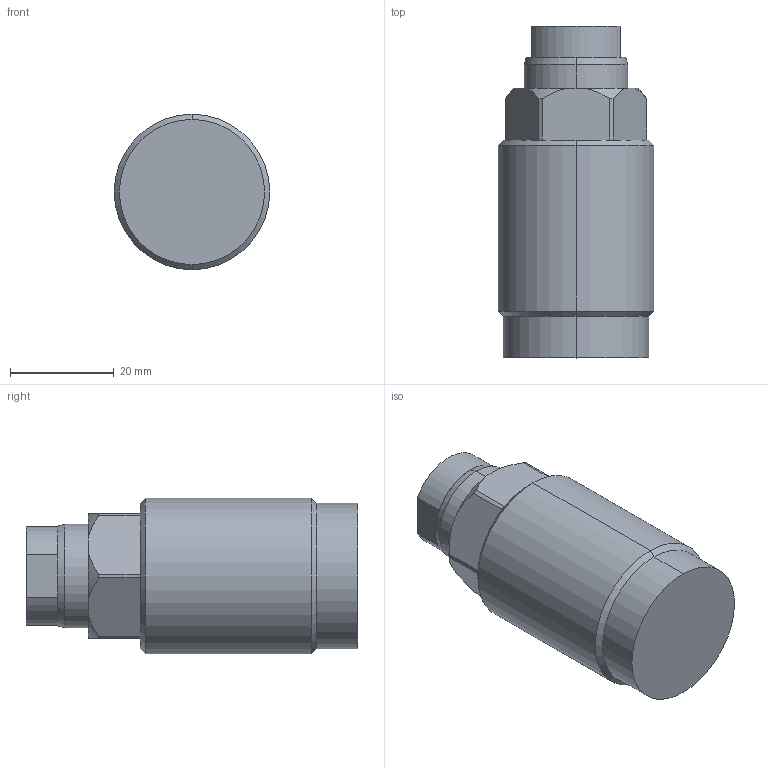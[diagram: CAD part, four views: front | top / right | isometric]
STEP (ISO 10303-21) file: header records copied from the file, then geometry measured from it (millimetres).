
FILE_DESCRIPTION (( 'STEP AP214' ), '1' );
FILE_NAME ('TC-20B.STEP', '2021-10-19T00:43:58', ( '' ), ( '' ), 'SwSTEP 2.0', 'SolidWorks 2016', '' );
FILE_SCHEMA (( 'AUTOMOTIVE_DESIGN' ));
Length unit declared in the file: millimetre
Products named in the file (1): TC-20B
Bounding box: 30 x 64 x 30 mm (x, y, z)
Volume: 36934.7 mm3; surface area: 6929.1 mm2
Topology: 1 solids, 1 shells, 45 faces, 110 edges, 69 vertices
Faces by surface type: cylinder 17, cone 15, plane 13
Entity records: 1454 total; most frequent: CARTESIAN_POINT 307, DIRECTION 234, ORIENTED_EDGE 216, EDGE_CURVE 108, AXIS2_PLACEMENT_3D 92, VERTEX_POINT 69, VECTOR 50, LINE 50
